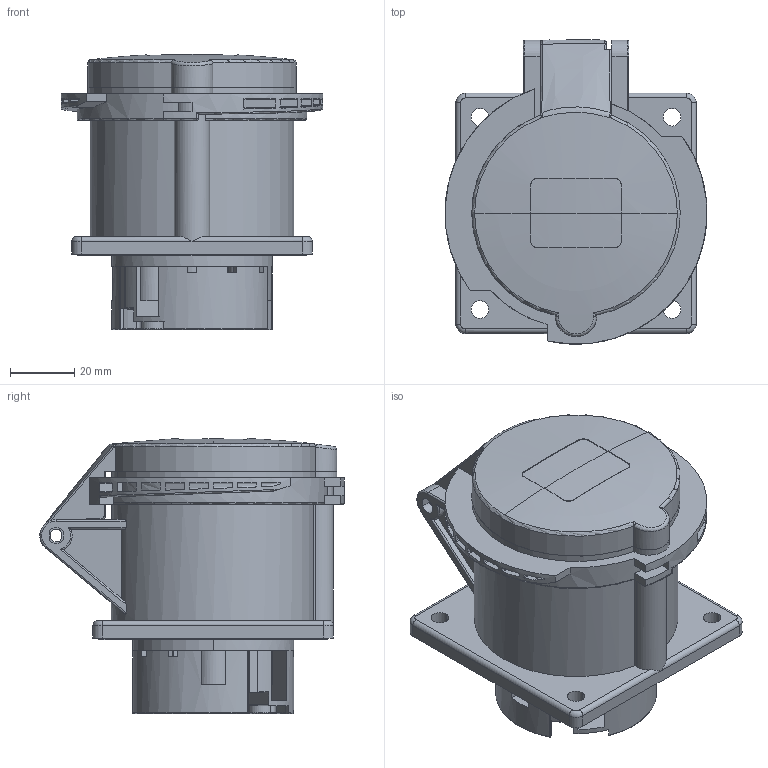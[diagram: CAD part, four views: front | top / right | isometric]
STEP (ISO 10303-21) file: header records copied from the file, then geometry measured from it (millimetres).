
FILE_DESCRIPTION(('FreeCAD Model'),'2;1');
FILE_NAME('Open CASCADE Shape Model','2026-02-04T10:34:14',(''),(''), 'Open CASCADE STEP processor 7.8','FreeCAD','Unknown');
FILE_SCHEMA(('AUTOMOTIVE_DESIGN { 1 0 10303 214 1 1 1 1 }'));
Length unit declared in the file: millimetre
Products named in the file (5): TL3R32443; Terminais; Tomada; Base interna; Tampa
Assembly tree (4 placements, depth 2):
  TL3R32443
    Terminais
    Tomada
    Base interna
    Tampa
Bounding box: 81.7 x 94.94 x 85.83 mm (x, y, z)
Volume: 217299.8 mm3; surface area: 72229.6 mm2
Topology: 4 solids, 4 shells, 771 faces, 2120 edges, 1394 vertices
Faces by surface type: plane 449, cylinder 250, torus 33, bspline 21, cone 9, sphere 9
Full cylindrical faces by diameter (mm): 8.5 x1, 10.5 x1, 11 x1
Entity records: 28234 total; most frequent: CARTESIAN_POINT 8441, ORIENTED_EDGE 4234, DIRECTION 3961, EDGE_CURVE 2117, VERTEX_POINT 1394, AXIS2_PLACEMENT_3D 1330, LINE 1301, VECTOR 1301
